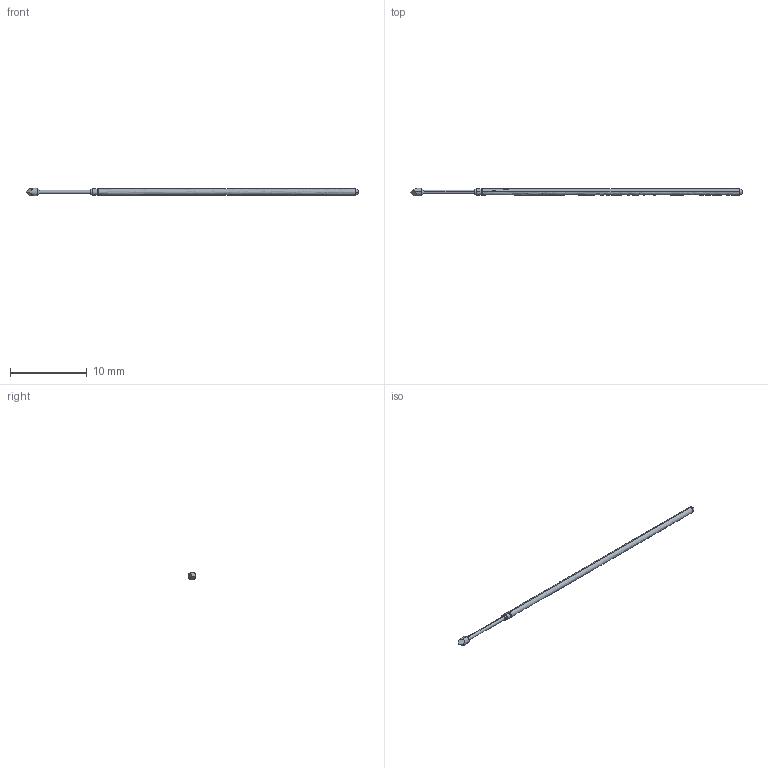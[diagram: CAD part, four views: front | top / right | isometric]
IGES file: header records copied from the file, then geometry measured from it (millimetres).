
Start section: SolidWorks IGES file using analytic representation for surfaces
Global section: file name: L:\probe solid model mockups\Solidworks models\POGO-72T38.IGS; native system: SolidWorks 2006 by SolidWorks Corporation; preprocessor: SolidWorks 2006 by SolidWorks Corporation; author: Ksnyder; date: 071211.140121; units: inch
Bounding box: 43.18 x 0.97 x 0.97 mm (x, y, z)
Volume: 29.8 mm3; surface area: 184.2 mm2
Topology: 1 solids, 1 shells, 25 faces, 54 edges, 30 vertices
Faces by surface type: revolution 20, plane 5
